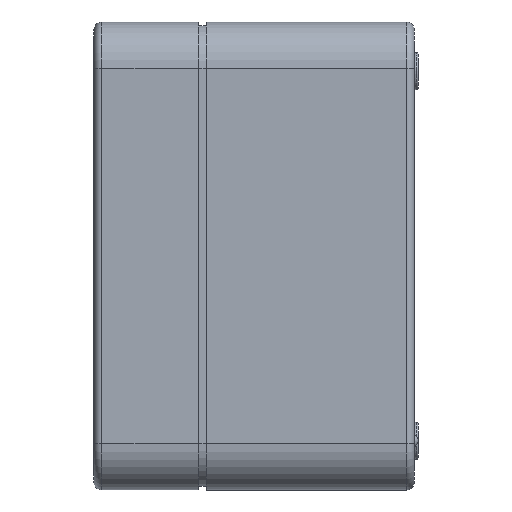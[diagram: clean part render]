
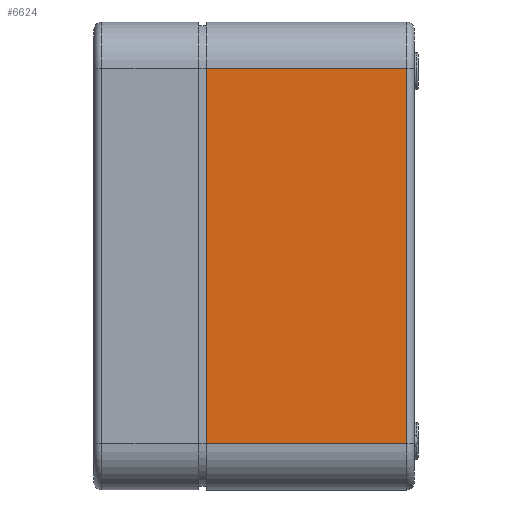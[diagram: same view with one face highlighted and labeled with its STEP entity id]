
A CAD part, left-side view. The second image highlights one B-rep face of the part: STEP entity #6624.
In plain terms, the highlighted planar face has unit normal (-1, 0, 0).
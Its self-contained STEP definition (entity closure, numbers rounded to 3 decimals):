
#264 = ORIENTED_EDGE ( 'NONE', *, *, #6270, .T. ) ;
#735 = EDGE_CURVE ( 'NONE', #6407, #15054, #968, .T. ) ;
#968 = LINE ( 'NONE', #7706, #8195 ) ;
#1542 = CARTESIAN_POINT ( 'NONE',  ( -32.85, -2., -24.4 ) ) ;
#1795 = FACE_OUTER_BOUND ( 'NONE', #4107, .T. ) ;
#2521 = LINE ( 'NONE', #2658, #5927 ) ;
#2658 = CARTESIAN_POINT ( 'NONE',  ( -32.85, -29., -24.4 ) ) ;
#4107 = EDGE_LOOP ( 'NONE', ( #11595, #264, #5834, #5218 ) ) ;
#4826 = DIRECTION ( 'NONE',  ( 0., 1., 0. ) ) ;
#4910 = EDGE_CURVE ( 'NONE', #7362, #8578, #2521, .T. ) ;
#5193 = PLANE ( 'NONE',  #13577 ) ;
#5218 = ORIENTED_EDGE ( 'NONE', *, *, #16850, .F. ) ;
#5834 = ORIENTED_EDGE ( 'NONE', *, *, #735, .T. ) ;
#5927 = VECTOR ( 'NONE', #7905, 1000. ) ;
#6270 = EDGE_CURVE ( 'NONE', #8578, #6407, #14408, .T. ) ;
#6407 = VERTEX_POINT ( 'NONE', #17095 ) ;
#6624 = ADVANCED_FACE ( 'NONE', ( #1795 ), #5193, .T. ) ;
#6990 = CARTESIAN_POINT ( 'NONE',  ( -32.85, -28., -24.4 ) ) ;
#7362 = VERTEX_POINT ( 'NONE', #1542 ) ;
#7668 = DIRECTION ( 'NONE',  ( 0., 0., 1. ) ) ;
#7706 = CARTESIAN_POINT ( 'NONE',  ( -32.85, -29., 24.4 ) ) ;
#7777 = DIRECTION ( 'NONE',  ( 0., 0., 1. ) ) ;
#7905 = DIRECTION ( 'NONE',  ( 0., -1., 0. ) ) ;
#8195 = VECTOR ( 'NONE', #4826, 1000. ) ;
#8578 = VERTEX_POINT ( 'NONE', #6990 ) ;
#11463 = DIRECTION ( 'NONE',  ( -1., 0., 0. ) ) ;
#11595 = ORIENTED_EDGE ( 'NONE', *, *, #4910, .T. ) ;
#11943 = CARTESIAN_POINT ( 'NONE',  ( -32.85, -2., 0. ) ) ;
#12284 = DIRECTION ( 'NONE',  ( 0., 0., 1. ) ) ;
#12584 = CARTESIAN_POINT ( 'NONE',  ( -32.85, -28., 24.4 ) ) ;
#13577 = AXIS2_PLACEMENT_3D ( 'NONE', #13634, #11463, #7777 ) ;
#13634 = CARTESIAN_POINT ( 'NONE',  ( -32.85, -29., -30.4 ) ) ;
#13962 = VECTOR ( 'NONE', #12284, 1000. ) ;
#14408 = LINE ( 'NONE', #12584, #13962 ) ;
#15054 = VERTEX_POINT ( 'NONE', #17924 ) ;
#16798 = VECTOR ( 'NONE', #7668, 1000. ) ;
#16850 = EDGE_CURVE ( 'NONE', #7362, #15054, #17713, .T. ) ;
#17095 = CARTESIAN_POINT ( 'NONE',  ( -32.85, -28., 24.4 ) ) ;
#17713 = LINE ( 'NONE', #11943, #16798 ) ;
#17924 = CARTESIAN_POINT ( 'NONE',  ( -32.85, -2., 24.4 ) ) ;
